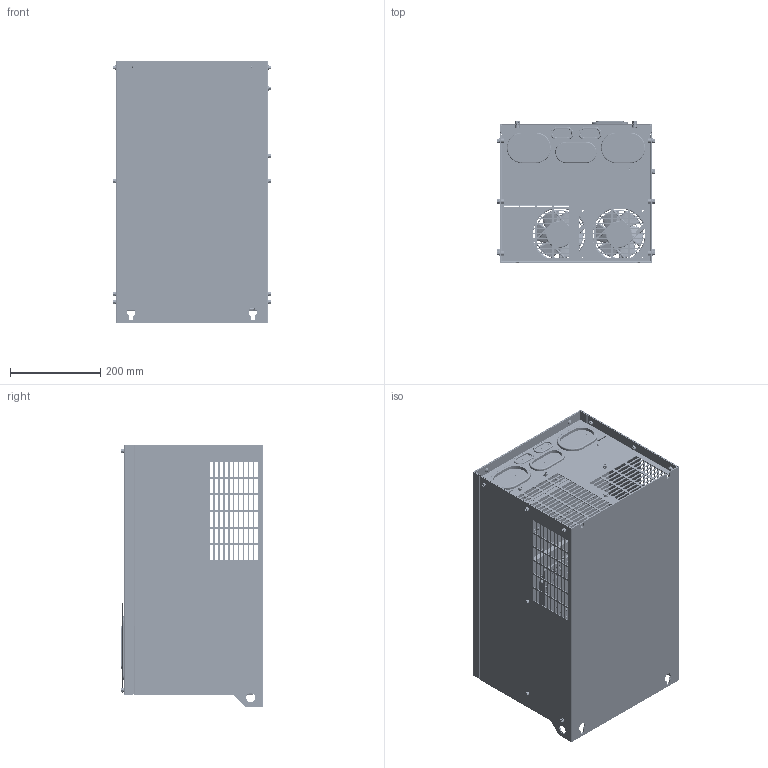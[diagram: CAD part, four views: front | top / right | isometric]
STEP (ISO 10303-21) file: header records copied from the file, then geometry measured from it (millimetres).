
FILE_DESCRIPTION((''),'2;1');
FILE_NAME('000_MVT114ZG-520_ASM','2021-12-13T',('h2718'),(''),'CREO PARAMETRIC BY PTC INC, 2015290','CREO PARAMETRIC BY PTC INC, 2015290','');
FILE_SCHEMA(('AP203_CONFIGURATION_CONTROLLED_3D_DESIGN_OF_MECHANICAL_PARTS_AND_ASSEMBLIES_MIM_LF { 1 0 10303 403 2 1 2 }'));
Products named in the file (27): 8034553-01_ASM_5_SW0001; 8034553-02-11_6; 8034553-11_2; 8034553-15_ASM_1_SW0001; SIT2013ADE9; 8034553_ASM_5_ASM; 7757019_ASM_3_SW0001; FAN-120X38_1; FAN-120-COVER_1_SW0001; FAN-120X38-ASSM_ASM_1_ASM; QJ_MVT114ZG_ASM_3_ASM; 20066001_3; 21030044_4; 21030045_3; GB9074_13-88_M5X12_GB_1; GB9074_13-88_M6X20_GB_1; GB97_1-2002_12_GB_A_1; GB93-87_12_GB_1; GB6170-2000_M12_GB1_A_8_1; GB9074_13-88_M5X12_GBXNHJ_2; FL_MVT114ZG_ASM_10_ASM; 520-KZB-20211209; 520-AJZJ-02-20211209; 20212503_S; 20441163; 001-520-ZUJIAN_ASM; 000_MVT114ZG-520_ASM
Assembly tree (74 placements, depth 4):
  000_MVT114ZG-520_ASM
    8034553_ASM_5_ASM
      8034553-01_ASM_5_SW0001
      8034553-02-11_6
      8034553-11_2
      8034553-15_ASM_1_SW0001
      SIT2013ADE9
    7757019_ASM_3_SW0001
    QJ_MVT114ZG_ASM_3_ASM
      FAN-120X38-ASSM_ASM_1_ASM  x2
        FAN-120X38_1
        FAN-120-COVER_1_SW0001
    FL_MVT114ZG_ASM_10_ASM
      20066001_3
      21030044_4  x2
      21030045_3  x2
      GB9074_13-88_M5X12_GB_1  x18
      GB9074_13-88_M6X20_GB_1  x2
      GB97_1-2002_12_GB_A_1  x9
      GB93-87_12_GB_1  x9
      GB6170-2000_M12_GB1_A_8_1  x9
      GB9074_13-88_M5X12_GBXNHJ_2  x4
    001-520-ZUJIAN_ASM
      520-KZB-20211209
      520-AJZJ-02-20211209
      20212503_S
      20441163
Bounding box: 349.6 x 316.58 x 580 mm (x, y, z)
Volume: 2683448 mm3; surface area: 2843429 mm2
Topology: 112 solids, 130 shells, 15003 faces, 41700 edges, 27119 vertices
Faces by surface type: plane 8508, cylinder 3934, cone 1213, bspline 877, torus 306, extrusion 98, revolution 42, sphere 25
Entity records: 770745 total; most frequent: CARTESIAN_POINT 299412, ORIENTED_EDGE 73726, DIRECTION 64712, PRESENTATION_STYLE_ASSIGNMENT 39663, STYLED_ITEM 37162, CURVE_STYLE 37101, EDGE_CURVE 36892, VECTOR 25197
